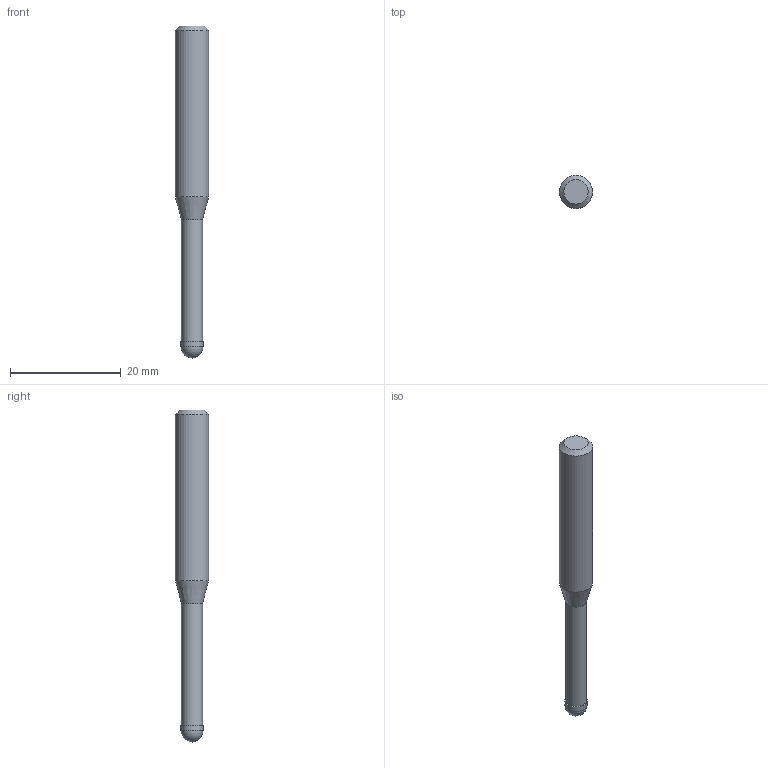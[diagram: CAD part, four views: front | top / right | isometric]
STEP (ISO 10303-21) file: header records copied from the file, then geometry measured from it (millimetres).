
FILE_DESCRIPTION((''),'2;1');
FILE_NAME('C:\Users\nsx150\AppData\Local\Temp\Mastercam 2021\QT8KEW0Y7J\TEMP.step','2021-04-23T11:22:01',(''),(''),'STEP Write','Mastercam 2021 ... CNC Software, Inc.','');
FILE_SCHEMA(('AUTOMOTIVE_DESIGN'));
Length unit declared in the file: millimetre
Products named in the file (1): None
Bounding box: 6 x 6 x 60 mm (x, y, z)
Volume: 1225.6 mm3; surface area: 990.6 mm2
Topology: 2 solids, 2 shells, 9 faces, 14 edges, 8 vertices
Faces by surface type: plane 3, cylinder 3, cone 2, sphere 1
Full cylindrical faces by diameter (mm): 3.8 x1, 4 x1, 6 x1
Entity records: 211 total; most frequent: DIRECTION 36, CARTESIAN_POINT 25, AXIS2_PLACEMENT_3D 18, ORIENTED_EDGE 14, EDGE_LOOP 14, STYLED_ITEM 12, ADVANCED_FACE 9, FACE_BOUND 8
